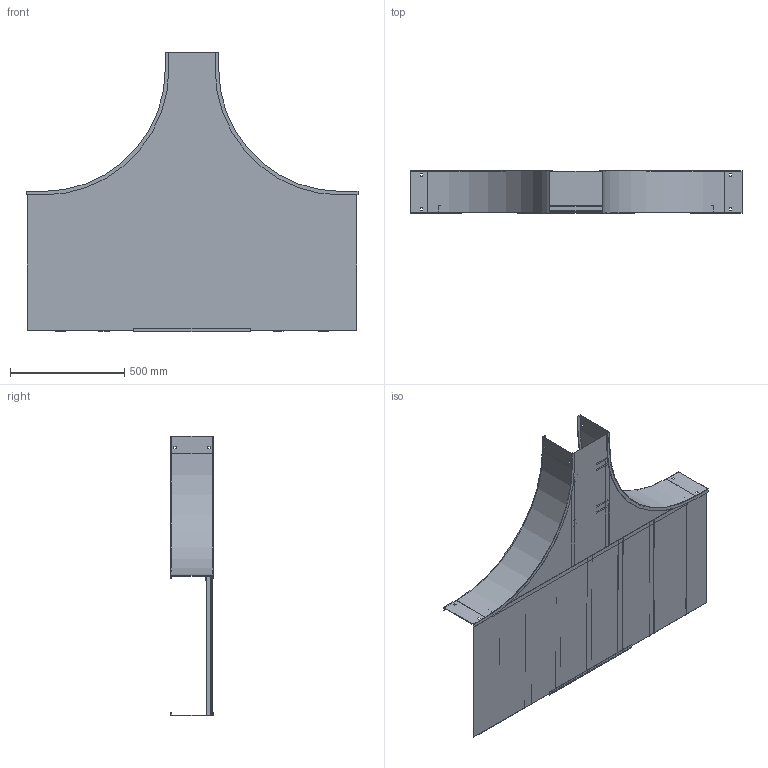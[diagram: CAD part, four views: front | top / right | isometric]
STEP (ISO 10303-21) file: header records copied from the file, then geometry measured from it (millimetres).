
FILE_DESCRIPTION((''),'2;1');
FILE_NAME('AUF72409SRT24_ASM','2010-02-11T',('erouzier'),(''),'PRO/ENGINEER BY PARAMETRIC TECHNOLOGY CORPORATION, 2008510','PRO/ENGINEER BY PARAMETRIC TECHNOLOGY CORPORATION, 2008510','');
FILE_SCHEMA(('CONFIG_CONTROL_DESIGN'));
Length unit declared in the file: inch
Products named in the file (16): CDS001322-7-90-21-I; CDS013844_GEN; CDS000495_GEN_AF9; CDS002159L24_AF7; CDS002159L24_AF8; CDS002159L24_AF9; CDS002159L24_AF10; CDS002159L24_AF11; CDS002159L24_AF12; CDS002159L24_AF13; CDS000495_GEN_AF10; CDS000495_GEN_AF11; CDS002159L9_AF2; CDS002159L9_AF3; CDS005002-24-24-9; AUF72409SRT24_ASM
Assembly tree (16 placements, depth 2):
  AUF72409SRT24_ASM
    CDS001322-7-90-21-I  x2
    CDS013844_GEN
    CDS000495_GEN_AF9
    CDS002159L24_AF7
    CDS002159L24_AF8
    CDS002159L24_AF9
    CDS002159L24_AF10
    CDS002159L24_AF11
    CDS002159L24_AF12
    CDS002159L24_AF13
    CDS000495_GEN_AF10
    CDS000495_GEN_AF11
    CDS002159L9_AF2
    CDS002159L9_AF3
    CDS005002-24-24-9
Bounding box: 1453.39 x 183.9 x 1224.79 mm (x, y, z)
Volume: 3627431.5 mm3; surface area: 4749664.7 mm2
Topology: 16 solids, 16 shells, 406 faces, 1122 edges, 748 vertices
Faces by surface type: plane 297, cylinder 109
Entity records: 12226 total; most frequent: CARTESIAN_POINT 2114, ORIENTED_EDGE 2052, DIRECTION 2044, EDGE_CURVE 1026, VECTOR 816, LINE 816, VERTEX_POINT 684, AXIS2_PLACEMENT_3D 614
